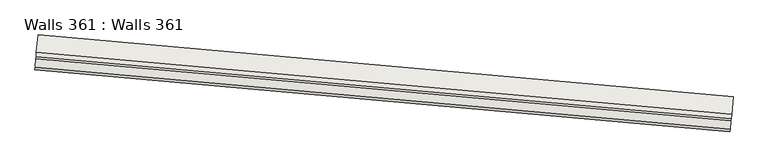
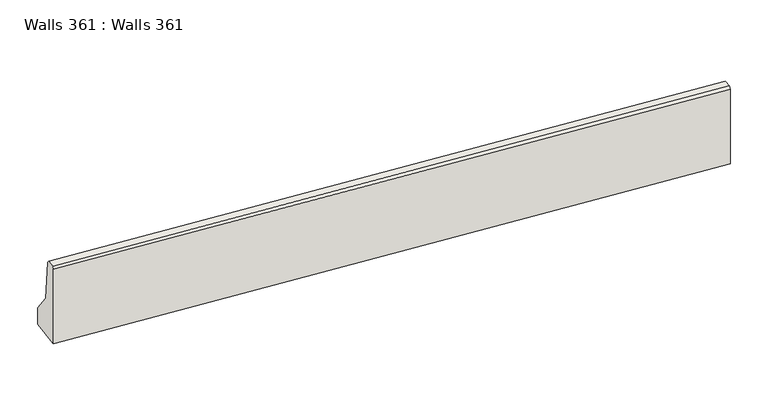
"""IFC4 building model written with IfcOpenShell, lengths in millimetres: wall geometry, Walls 361 : Walls 361."""

from ifc_helpers import new_model, si_unit, frame, origin, place, context, project, spatial, polyline, outline, extrude, source, transform, mapped, element, save


def walls_361_walls_361_37d794f2(model_context):
    return source(origin(), model_context, "Body", "SweptSolid", [
        extrude(outline(polyline([(636680.0, 400.0), (636930.0, 200.0), (637435.0, 150.0), (637460.0, 125.0), (637460.0, 25.0), (637435.0, 0.0), (636460.0, 0.0), (636460.0, 400.0), (636680.0, 400.0)])), frame((-706542.8915365, -416135.4636201, 0.0), z_axis=(-0.9960550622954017, 0.08873732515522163, 0.0), x_axis=(0.0, 0.0, 1.0)), (0.0, 0.0, 1.0), 8000.0000001),
    ])


if __name__ == "__main__":
    model = new_model("IFC4")
    model_context = context("Model", 3, world=origin())
    ifc_project = project(units=[si_unit("LENGTHUNIT", "METRE", prefix="MILLI")], contexts=[model_context])
    site = spatial("IfcSite", under=ifc_project)
    building = spatial("IfcBuilding", under=site)
    placement = place(None, origin())
    walls_361_walls_361_shape = walls_361_walls_361_37d794f2(model_context)
    element("IfcWall", 1, ObjectType="Walls 361 : Walls 361", at=placement, inside=building, context=model_context, shape_type="MappedRepresentation", body=[
        mapped(walls_361_walls_361_shape, transform((0.0, 0.0, 0.0), x_axis=(1.0, 0.0, 0.0), y_axis=(0.0, 1.0, 0.0), z_axis=(0.0, 0.0, 1.0))),
    ])
    save(model, "model.ifc")
